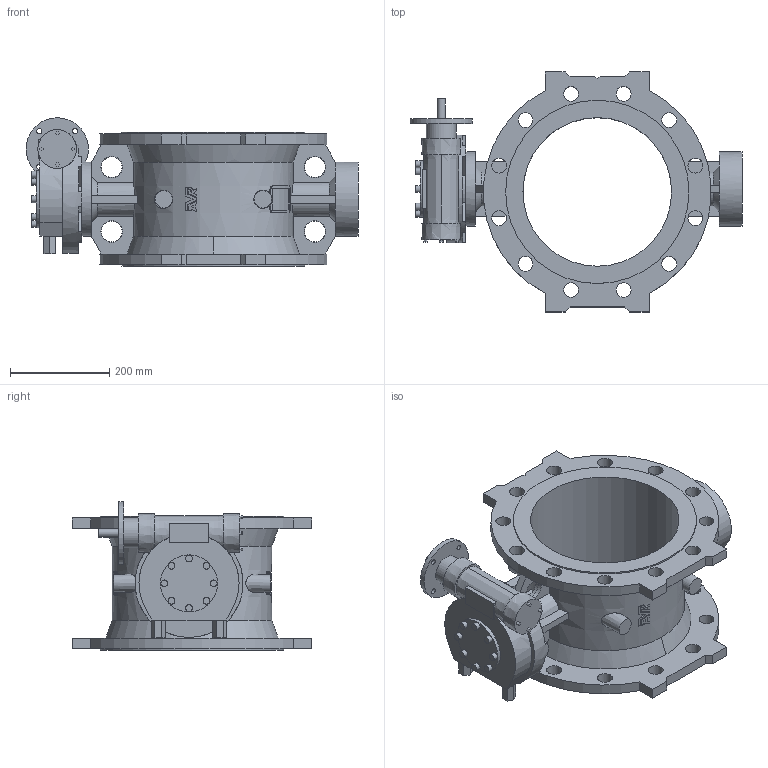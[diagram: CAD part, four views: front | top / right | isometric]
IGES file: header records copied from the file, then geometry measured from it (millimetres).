
Start section: SolidWorks IGES file using analytic representation for surfaces
Global section: file name: \\avksan2\techshare\PBM outline export from Enovia\O_756_102_DN300_1XX_AA0_igs.igs; native system: SolidWorks 2012; preprocessor: SolidWorks 2012; author: pbm; date: 160309.114926; units: millimetre
Bounding box: 670 x 484 x 299.6 mm (x, y, z)
Surface area: 1294288.1 mm2 (no closed solid volume)
Topology: 0 solids, 0 shells, 448 faces, 3380 edges, 3276 vertices
Faces by surface type: bspline 338, revolution 110
